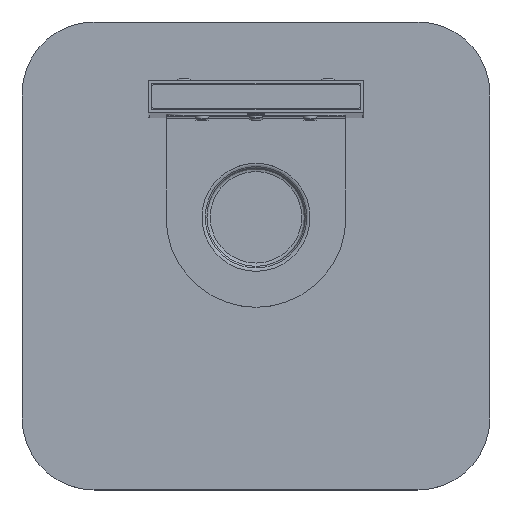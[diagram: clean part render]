
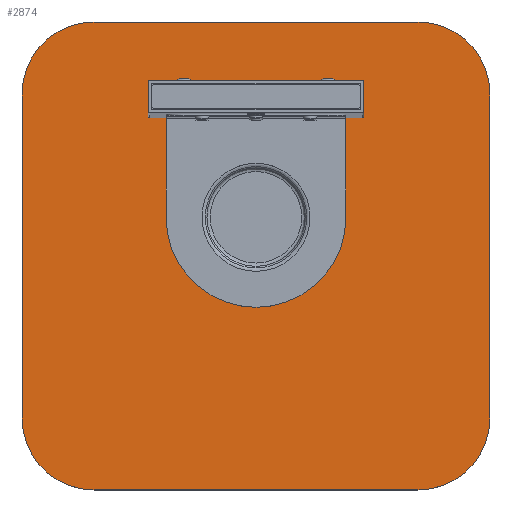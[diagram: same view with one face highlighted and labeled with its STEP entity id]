
A CAD part, top view. The second image highlights one B-rep face of the part: STEP entity #2874.
In plain terms, the highlighted planar face has unit normal (0, 0, 1).
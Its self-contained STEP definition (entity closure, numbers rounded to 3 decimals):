
#184=FACE_BOUND('',#590,.T.);
#185=FACE_BOUND('',#591,.T.);
#297=PLANE('',#3073);
#407=FACE_OUTER_BOUND('',#589,.T.);
#589=EDGE_LOOP('',(#2148,#2149,#2150,#2151,#2152,#2153,#2154,#2155));
#590=EDGE_LOOP('',(#2156,#2157,#2158,#2159));
#591=EDGE_LOOP('',(#2160,#2161,#2162,#2163));
#856=LINE('',#4343,#1084);
#870=LINE('',#4379,#1098);
#873=LINE('',#4387,#1101);
#875=LINE('',#4395,#1103);
#878=LINE('',#4400,#1106);
#880=LINE('',#4404,#1108);
#882=LINE('',#4407,#1110);
#883=LINE('',#4411,#1111);
#886=LINE('',#4416,#1114);
#888=LINE('',#4420,#1116);
#890=LINE('',#4423,#1118);
#891=LINE('',#4425,#1119);
#1084=VECTOR('',#3412,180.);
#1098=VECTOR('',#3440,180.);
#1101=VECTOR('',#3449,180.);
#1103=VECTOR('',#3457,20.3);
#1106=VECTOR('',#3462,3.2);
#1108=VECTOR('',#3466,20.3);
#1110=VECTOR('',#3470,3.2);
#1111=VECTOR('',#3473,20.3);
#1114=VECTOR('',#3478,3.2);
#1116=VECTOR('',#3482,20.3);
#1118=VECTOR('',#3486,3.2);
#1119=VECTOR('',#3489,180.);
#1308=CIRCLE('',#3049,40.);
#1313=CIRCLE('',#3057,40.);
#1314=CIRCLE('',#3060,40.);
#1315=CIRCLE('',#3063,40.);
#1440=VERTEX_POINT('',#4330);
#1441=VERTEX_POINT('',#4331);
#1445=VERTEX_POINT('',#4341);
#1459=VERTEX_POINT('',#4373);
#1460=VERTEX_POINT('',#4377);
#1461=VERTEX_POINT('',#4381);
#1462=VERTEX_POINT('',#4385);
#1463=VERTEX_POINT('',#4389);
#1464=VERTEX_POINT('',#4393);
#1465=VERTEX_POINT('',#4394);
#1466=VERTEX_POINT('',#4399);
#1467=VERTEX_POINT('',#4403);
#1468=VERTEX_POINT('',#4409);
#1469=VERTEX_POINT('',#4410);
#1470=VERTEX_POINT('',#4415);
#1471=VERTEX_POINT('',#4419);
#1702=EDGE_CURVE('',#1440,#1441,#1308,.T.);
#1708=EDGE_CURVE('',#1445,#1440,#856,.T.);
#1723=EDGE_CURVE('',#1459,#1445,#1313,.T.);
#1726=EDGE_CURVE('',#1460,#1459,#870,.T.);
#1727=EDGE_CURVE('',#1461,#1460,#1314,.T.);
#1730=EDGE_CURVE('',#1462,#1461,#873,.T.);
#1731=EDGE_CURVE('',#1463,#1462,#1315,.T.);
#1733=EDGE_CURVE('',#1464,#1465,#875,.T.);
#1736=EDGE_CURVE('',#1466,#1464,#878,.T.);
#1738=EDGE_CURVE('',#1467,#1466,#880,.T.);
#1740=EDGE_CURVE('',#1465,#1467,#882,.T.);
#1741=EDGE_CURVE('',#1468,#1469,#883,.T.);
#1744=EDGE_CURVE('',#1470,#1468,#886,.T.);
#1746=EDGE_CURVE('',#1471,#1470,#888,.T.);
#1748=EDGE_CURVE('',#1469,#1471,#890,.T.);
#1749=EDGE_CURVE('',#1441,#1463,#891,.T.);
#2148=ORIENTED_EDGE('',*,*,#1702,.F.);
#2149=ORIENTED_EDGE('',*,*,#1708,.F.);
#2150=ORIENTED_EDGE('',*,*,#1723,.F.);
#2151=ORIENTED_EDGE('',*,*,#1726,.F.);
#2152=ORIENTED_EDGE('',*,*,#1727,.F.);
#2153=ORIENTED_EDGE('',*,*,#1730,.F.);
#2154=ORIENTED_EDGE('',*,*,#1731,.F.);
#2155=ORIENTED_EDGE('',*,*,#1749,.F.);
#2156=ORIENTED_EDGE('',*,*,#1733,.T.);
#2157=ORIENTED_EDGE('',*,*,#1740,.T.);
#2158=ORIENTED_EDGE('',*,*,#1738,.T.);
#2159=ORIENTED_EDGE('',*,*,#1736,.T.);
#2160=ORIENTED_EDGE('',*,*,#1741,.T.);
#2161=ORIENTED_EDGE('',*,*,#1748,.T.);
#2162=ORIENTED_EDGE('',*,*,#1746,.T.);
#2163=ORIENTED_EDGE('',*,*,#1744,.T.);
#2874=ADVANCED_FACE('',(#407,#184,#185),#297,.T.);
#3049=AXIS2_PLACEMENT_3D('',#4332,#3402,#3403);
#3057=AXIS2_PLACEMENT_3D('',#4374,#3434,#3435);
#3060=AXIS2_PLACEMENT_3D('',#4382,#3443,#3444);
#3063=AXIS2_PLACEMENT_3D('',#4390,#3452,#3453);
#3073=AXIS2_PLACEMENT_3D('',#4426,#3490,#3491);
#3402=DIRECTION('center_axis',(0.,0.,-1.));
#3403=DIRECTION('ref_axis',(-0.707,-0.707,0.));
#3412=DIRECTION('',(-1.,0.,0.));
#3434=DIRECTION('center_axis',(0.,0.,-1.));
#3435=DIRECTION('ref_axis',(0.707,-0.707,0.));
#3440=DIRECTION('',(0.,-1.,0.));
#3443=DIRECTION('center_axis',(0.,0.,-1.));
#3444=DIRECTION('ref_axis',(0.707,0.707,0.));
#3449=DIRECTION('',(1.,0.,0.));
#3452=DIRECTION('center_axis',(0.,0.,-1.));
#3453=DIRECTION('ref_axis',(-0.707,0.707,0.));
#3457=DIRECTION('',(-1.,0.,0.));
#3462=DIRECTION('',(0.,-1.,0.));
#3466=DIRECTION('',(1.,0.,0.));
#3470=DIRECTION('',(0.,1.,0.));
#3473=DIRECTION('',(1.,0.,0.));
#3478=DIRECTION('',(0.,1.,0.));
#3482=DIRECTION('',(-1.,0.,0.));
#3486=DIRECTION('',(0.,-1.,0.));
#3489=DIRECTION('',(0.,1.,0.));
#3490=DIRECTION('center_axis',(0.,0.,1.));
#3491=DIRECTION('ref_axis',(1.,0.,0.));
#4330=CARTESIAN_POINT('',(-90.,-130.,8.));
#4331=CARTESIAN_POINT('',(-130.,-90.,8.));
#4332=CARTESIAN_POINT('Origin',(-90.,-90.,8.));
#4341=CARTESIAN_POINT('',(90.,-130.,8.));
#4343=CARTESIAN_POINT('',(-130.,-130.,8.));
#4373=CARTESIAN_POINT('',(130.,-90.,8.));
#4374=CARTESIAN_POINT('Origin',(90.,-90.,8.));
#4377=CARTESIAN_POINT('',(130.,90.,8.));
#4379=CARTESIAN_POINT('',(130.,-130.,8.));
#4381=CARTESIAN_POINT('',(90.,130.,8.));
#4382=CARTESIAN_POINT('Origin',(90.,90.,8.));
#4385=CARTESIAN_POINT('',(-90.,130.,8.));
#4387=CARTESIAN_POINT('',(130.,130.,8.));
#4389=CARTESIAN_POINT('',(-130.,90.,8.));
#4390=CARTESIAN_POINT('Origin',(-90.,90.,8.));
#4393=CARTESIAN_POINT('',(-27.35,89.8,8.));
#4394=CARTESIAN_POINT('',(-47.65,89.8,8.));
#4395=CARTESIAN_POINT('',(-13.675,89.8,8.));
#4399=CARTESIAN_POINT('',(-27.35,93.,8.));
#4400=CARTESIAN_POINT('',(-27.35,46.5,8.));
#4403=CARTESIAN_POINT('',(-47.65,93.,8.));
#4404=CARTESIAN_POINT('',(-23.825,93.,8.));
#4407=CARTESIAN_POINT('',(-47.65,44.9,8.));
#4409=CARTESIAN_POINT('',(27.35,93.,8.));
#4410=CARTESIAN_POINT('',(47.65,93.,8.));
#4411=CARTESIAN_POINT('',(13.675,93.,8.));
#4415=CARTESIAN_POINT('',(27.35,89.8,8.));
#4416=CARTESIAN_POINT('',(27.35,44.9,8.));
#4419=CARTESIAN_POINT('',(47.65,89.8,8.));
#4420=CARTESIAN_POINT('',(23.825,89.8,8.));
#4423=CARTESIAN_POINT('',(47.65,46.5,8.));
#4425=CARTESIAN_POINT('',(-130.,130.,8.));
#4426=CARTESIAN_POINT('Origin',(0.,0.,
8.));
